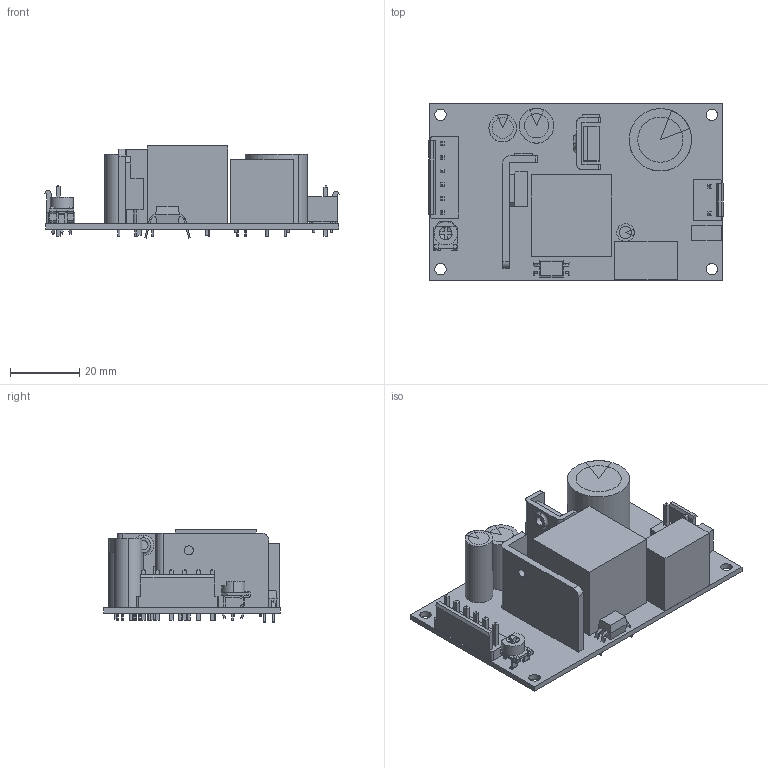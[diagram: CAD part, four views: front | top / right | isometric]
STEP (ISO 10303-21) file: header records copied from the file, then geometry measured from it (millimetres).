
FILE_DESCRIPTION(('Creo Elements/Direct Modeling STEP Export'),'2;1');
FILE_NAME('PSC-35.stp','2020-10-29T10:06:58',(''),(''),'PTC Creo Elements/Direct Modeling STEP processor for AP214 (Solid Model)','PTC Creo Elements/Direct Modeling 19.0E 27-Jun-2016 (C) Parametric Technology GmbH','');
FILE_SCHEMA(('AUTOMOTIVE_DESIGN { 1 0 10303 214 1 1 1 1 }'));
Length unit declared in the file: millimetre
Products named in the file (89): EXTRUDED-101564.PRT; 1143709840.ASM; CYLINDER-104822.PRT; 1185480248.ASM; CYLINDER-105024.PRT; 1185477968.ASM; CYLINDER-105216.PRT; 1185169824.ASM; DESIGNATOR170-101517.ASM; EXTRUDED-105447.PRT; 1143701200.ASM; CYLINDER-108393.PRT; 1184643168.ASM; CYLINDER-108585.PRT; 1159443944.ASM; CYLINDER-108782.PRT; 1184646664.ASM; DESIGNATOR170-105404.ASM; CYLINDER-112901.PRT; 1159443488.ASM; EXTRUDED-113098.PRT; 1143689520.ASM; DESIGNATOR17.ASM; CYLINDER-109021.PRT; 1163282312.ASM; CYLINDER-109218.PRT; 1163282464.ASM; CYLINDER-109410.PRT; 1163282616.ASM; EXTRUDED-109612.PRT; 1143696720.ASM; DESIGNATOR170-108970.ASM; CYLINDER-59362.PRT; 1213934960.ASM; CYLINDER-59559.PRT; 1161087216.ASM; EXTRUDED-59751.PRT; 778787424.ASM; CYLINDER-61917.PRT; 1161087520.ASM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
Assembly tree (99 placements, depth 6):
  PSC
    散热片
      HS1.ASM
        PIN_1_1.PRT
        HS-SZ011
      HS2
        HS-SZ008
        PIN_1_1.PRT.1
    PCB
      PCB-PSC35
    零件
      T1
      CN1
        JS1120R_1.ASM
          P1_1.PRT
          8_2.PRT  x2
      MOS15.5x10.1.1.1.1.1.1.1.1.1
      DESIGNATOR1700-82565.ASM
        1ARB-L060-_3306F-1.ASM
          USER_LIBRARY-TRIMMER__3306F-1_5.PRT
          USER_LIBRARY-TRIMMER__3306F-1_4.PRT
          USER_LIBRARY-TRIMMER__3306F-1_3.PRT
          USER_LIBRARY-TRIMMER__3306F-1_2.PRT
          USER_LIBRARY-TRIMMER__3306F-1_1.PRT
      CN1.1
        JS1120R_1.ASM
          8_2.PRT.4.1.1.1.1
          8_2.PRT.4.1.1.1
          8_2.PRT.4.1.1
          8_2.PRT.1
          P1_1.PRT
          8_2.PRT  x2
      DESIGNATOR170-78575.ASM
        1CDX-TO220AB-AC-VT.ASM
          USER_LIBRARY-TO220-2_V-L_TO220_.PRT
          USER_LIBRARY-TO220-2_V-L_FUSION.ASM
            USER_LIBRARY-TO220-2_V-L_FUSI_3.PRT
            USER_LIBRARY-TO220-2_V-L_FUSI_2.PRT
            USER_LIBRARY-TO220-2_V-L_FUSI_1.PRT
      DESIGNATOR170-73187.ASM
        1CU-SOIC4.PRT
      DESIGNATOR170-62105.ASM
        1213938456.ASM  x2
          CYLINDER-62144.PRT
        1261432752.ASM
          EXTRUDED-62708.PRT
        1261432912.ASM
          EXTRUDED-62336.PRT
      DESIGNATOR170-59319.ASM
        1161087520.ASM
          CYLINDER-61917.PRT
        778787424.ASM
          EXTRUDED-59751.PRT
        1161087216.ASM
          CYLINDER-59559.PRT
        1213934960.ASM  x2
          CYLINDER-59362.PRT
      DESIGNATOR170-108970.ASM
        1143696720.ASM
          EXTRUDED-109612.PRT
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Bounding box: 84.85 x 50.8 x 26.54 mm (x, y, z)
Volume: 36952.1 mm3; surface area: 26075.5 mm2
Topology: 57 solids, 57 shells, 799 faces, 1966 edges, 1290 vertices
Faces by surface type: plane 641, cylinder 134, bspline 18, torus 4, cone 2
Entity records: 27006 total; most frequent: CARTESIAN_POINT 4350, ORIENTED_EDGE 3744, DIRECTION 3607, EDGE_CURVE 1872, VECTOR 1557, LINE 1557, VERTEX_POINT 1230, AXIS2_PLACEMENT_3D 1025
